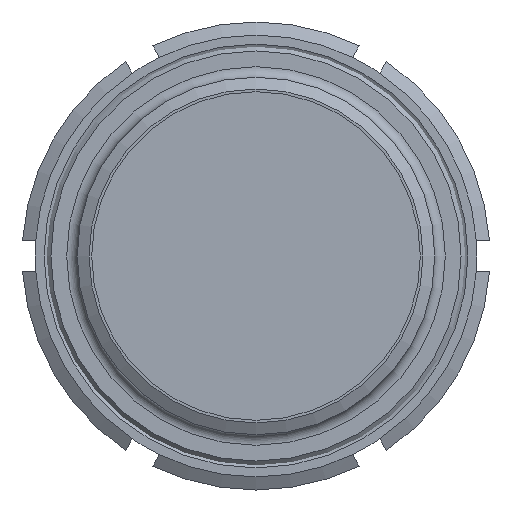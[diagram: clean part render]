
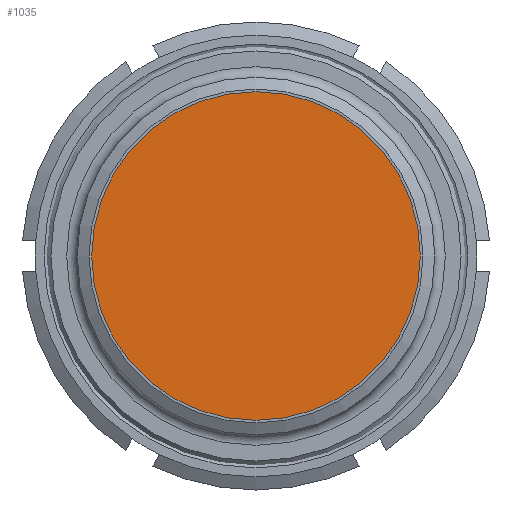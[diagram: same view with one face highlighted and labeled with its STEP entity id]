
A CAD part, front view. The second image highlights one B-rep face of the part: STEP entity #1035.
In plain terms, the highlighted planar face has unit normal (0, -1, 0).
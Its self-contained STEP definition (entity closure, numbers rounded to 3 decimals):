
#168=PLANE('',#1229);
#375=ORIENTED_EDGE('',*,*,#527,.T.);
#527=EDGE_CURVE('',#616,#616,#693,.F.);
#616=VERTEX_POINT('',#1926);
#693=CIRCLE('',#1230,69.5);
#786=EDGE_LOOP('',(#375));
#906=FACE_BOUND('',#786,.T.);
#1035=ADVANCED_FACE('',(#906),#168,.F.);
#1229=AXIS2_PLACEMENT_3D('',#1924,#1524,#1525);
#1230=AXIS2_PLACEMENT_3D('',#1925,#1526,#1527);
#1524=DIRECTION('',(0.,1.,0.));
#1525=DIRECTION('',(0.,0.,1.));
#1526=DIRECTION('',(0.,1.,0.));
#1527=DIRECTION('',(0.,0.,1.));
#1924=CARTESIAN_POINT('',(0.,0.,0.));
#1925=CARTESIAN_POINT('',(0.,0.,0.));
#1926=CARTESIAN_POINT('',(0.,0.,69.5));
